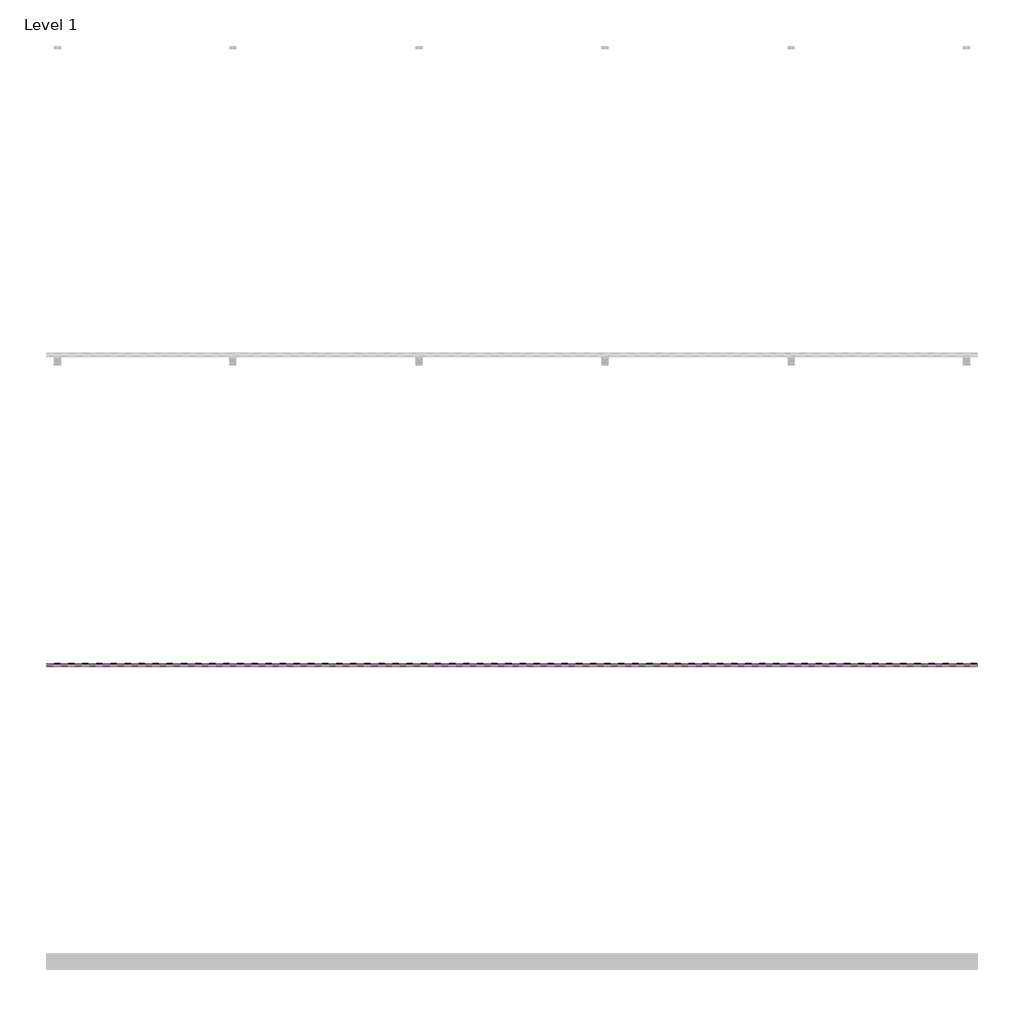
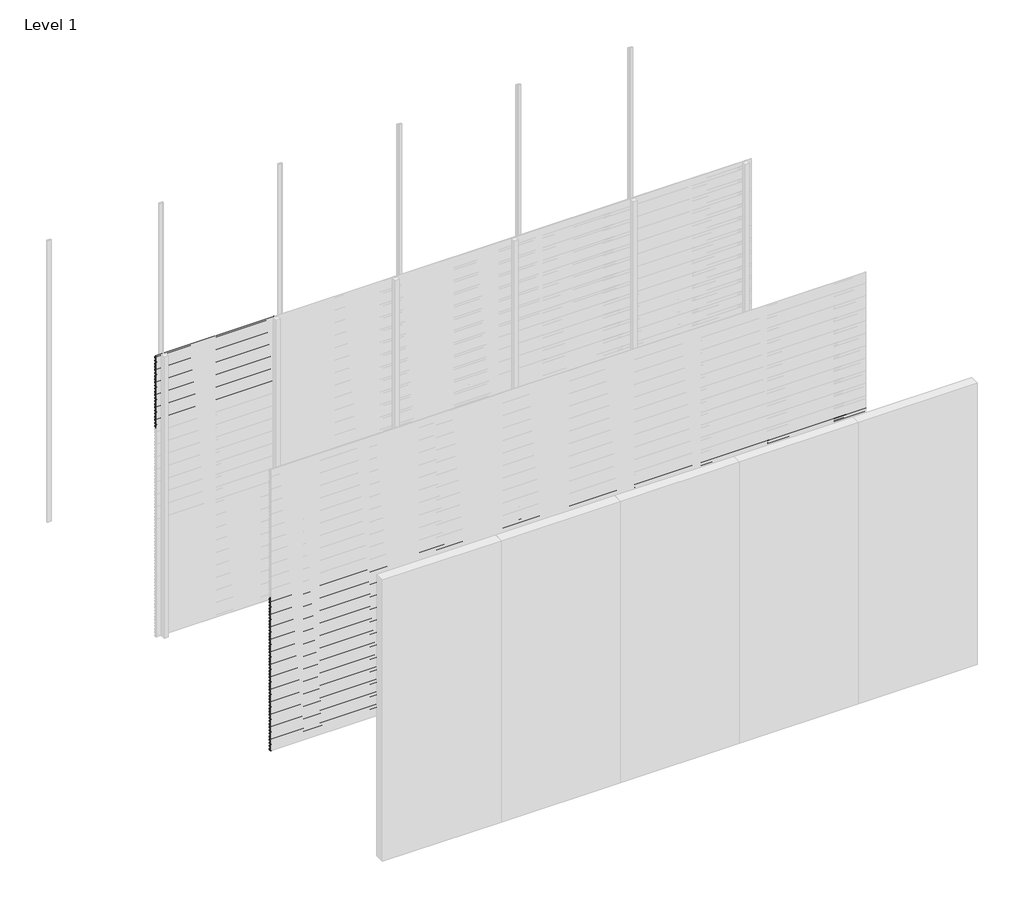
# One storey, part 34 of 77: 72 proxies.
"""IFC4 building model written with IfcOpenShell, lengths in millimetres."""

import ifcopenshell
import ifcopenshell.guid

model = None  # the IFC model being written
_history = None  # IfcOwnerHistory: only IFC2X3 demands one
_inside = {}  # id of a spatial element -> (the spatial element, [elements in it])
_under = {}  # id of a project, library or spatial element -> (it, [spatial elements below it])
_declared = {}  # id of a project -> (the project, [libraries it declares])
_typed = {}  # id of a type object -> (the type object, [elements of that type])
_made_of = {}  # id of a material, layer set ... -> (it, [elements and type objects made of it])


def new_model(schema):
    """Start an empty IFC model of exactly this schema.

    Asked for "IFC4X3", IfcOpenShell would pick the latest addendum, in which some entities
    have other attributes; the version numbers below select the first issue.
    IFC2X3 requires an IfcOwnerHistory on every rooted entity: one is made here for all.
    """
    global model, _history
    if schema == "IFC4X3":
        model = ifcopenshell.file(schema_version=(4, 3, 0, 0))
    else:
        model = ifcopenshell.file(schema=schema)
    _inside.clear()
    _under.clear()
    _declared.clear()
    _typed.clear()
    _made_of.clear()
    _history = None
    if model.schema == "IFC2X3":
        org = make("IfcOrganization", Name="unknown")
        user = make(
            "IfcPersonAndOrganization",
            ThePerson=make("IfcPerson", FamilyName="unknown"),
            TheOrganization=org,
        )
        app = make(
            "IfcApplication",
            ApplicationDeveloper=org,
            Version="unknown",
            ApplicationFullName="unknown",
            ApplicationIdentifier="unknown",
        )
        _history = make(
            "IfcOwnerHistory",
            OwningUser=user,
            OwningApplication=app,
            ChangeAction="ADDED",
            CreationDate=0,
        )
    return model


def make(cls, **values):
    """One entity of the class cls with the attributes given. An attribute that is None is left unset."""
    return model.create_entity(
        cls, **{name: value for name, value in values.items() if value is not None}
    )


def rooted(cls, **values):
    """An entity with a GlobalId (a new one), such as an element, a storey or a relation."""
    return make(cls, GlobalId=ifcopenshell.guid.new(), OwnerHistory=_history, **values)


def si_unit(unit_type, name, prefix=None):
    """IfcSIUnit, for example si_unit("LENGTHUNIT", "METRE", prefix="MILLI")."""
    return make("IfcSIUnit", UnitType=unit_type, Prefix=prefix, Name=name)


def assignment(units):
    """IfcUnitAssignment: the units of a project."""
    return None if units is None else make("IfcUnitAssignment", Units=units)


def point(xyz):
    """IfcCartesianPoint."""
    return None if xyz is None else make("IfcCartesianPoint", Coordinates=xyz)


def direction(xyz):
    """IfcDirection."""
    return None if xyz is None else make("IfcDirection", DirectionRatios=xyz)


def frame(location, z_axis=None, x_axis=None):
    """IfcAxis2Placement3D, a coordinate frame: its origin and axes. An axis left out is left unset."""
    return make(
        "IfcAxis2Placement3D",
        Location=point(location),
        Axis=direction(z_axis),
        RefDirection=direction(x_axis),
    )


def origin():
    """The frame at (0, 0, 0) with its axes left unset."""
    return frame((0.0, 0.0, 0.0))


def place(relative_to, where):
    """IfcLocalPlacement: puts the frame where relative to a parent placement (None: the world)."""
    return make(
        "IfcLocalPlacement", PlacementRelTo=relative_to, RelativePlacement=where
    )


def context(
    kind, dimensions, precision=None, world=None, true_north=None, identifier=None
):
    """IfcGeometricRepresentationContext, for example the 3D "Model" context."""
    return make(
        "IfcGeometricRepresentationContext",
        ContextIdentifier=identifier,
        ContextType=kind,
        CoordinateSpaceDimension=dimensions,
        Precision=precision,
        WorldCoordinateSystem=world,
        TrueNorth=true_north,
    )


def project(units=None, contexts=None):
    """IfcProject with its units and contexts."""
    return rooted(
        "IfcProject",
        Name="project",
        RepresentationContexts=contexts,
        UnitsInContext=assignment(units),
    )


def spatial(cls, under=None, at=None, **own):
    """A site, building, storey or space (cls), placed at a placement, below another one or the project."""
    s = rooted(cls, ObjectPlacement=at, **own)
    if under is not None:
        _under.setdefault(under.id(), (under, []))[1].append(s)
    return s


def polyline(points):
    """IfcPolyline through the points."""
    return make("IfcPolyline", Points=[point(p) for p in points])


def outline(outer, holes=None, kind="AREA"):
    """IfcArbitraryClosedProfileDef: a profile drawn as a closed curve; with holes, ...WithVoids."""
    if holes is None:
        return make("IfcArbitraryClosedProfileDef", ProfileType=kind, OuterCurve=outer)
    return make(
        "IfcArbitraryProfileDefWithVoids",
        ProfileType=kind,
        OuterCurve=outer,
        InnerCurves=holes,
    )


def extrude(swept, where, along, depth):
    """IfcExtrudedAreaSolid: the profile swept, set in the frame where, extruded along a direction by depth."""
    return make(
        "IfcExtrudedAreaSolid",
        SweptArea=swept,
        Position=where,
        ExtrudedDirection=direction(along),
        Depth=depth,
    )


def shape(context_of_items, identifier, shape_type, items):
    """IfcShapeRepresentation: the items that make up one representation, for example the "Body"."""
    return make(
        "IfcShapeRepresentation",
        ContextOfItems=context_of_items,
        RepresentationIdentifier=identifier,
        RepresentationType=shape_type,
        Items=items,
    )


def made_of(thing, what):
    """Note that an element or type object is made of a material, layer set ...; save() writes the relation."""
    if what is not None:
        _made_of.setdefault(what.id(), (what, []))[1].append(thing)
    return thing


def element(
    cls,
    number,
    at=None,
    inside=None,
    cuts=None,
    type_object=None,
    material=None,
    context=None,
    identifier="Body",
    shape_type=None,
    held_by="IfcProductDefinitionShape",
    body=None,
    shapes=None,
    **own,
):
    """One element of the class cls, such as IfcWall. Its Tag is "e" and its number.

    at: its placement. inside: the storey or other place that contains it. cuts: it is an
    opening in that element (IfcRelVoidsElement). A single representation is given by context,
    identifier, shape_type and body (its items); several are given by shapes. held_by: the class
    of the entity that holds the representations. save() writes the other relations.
    """
    e = rooted(cls, Tag="e%d" % number, ObjectPlacement=at, **own)
    if body is not None:
        shapes = [shape(context, identifier, shape_type, body)]
    if shapes is not None:
        e.Representation = make(held_by, Representations=shapes)
    if inside is not None:
        _inside.setdefault(inside.id(), (inside, []))[1].append(e)
    if cuts is not None:
        rooted(
            "IfcRelVoidsElement", RelatingBuildingElement=cuts, RelatedOpeningElement=e
        )
    if type_object is not None:
        _typed.setdefault(type_object.id(), (type_object, []))[1].append(e)
    return made_of(e, material)


def aggregate(whole, parts):
    """IfcRelAggregates: a whole, such as a stair, and the parts it consists of."""
    return rooted("IfcRelAggregates", RelatingObject=whole, RelatedObjects=parts)


def save(model, path):
    """Write the relations noted so far, then the file.

    IfcRelAggregates (storeys below a building ...), IfcRelContainedInSpatialStructure (elements
    in a storey), IfcRelDefinesByType, IfcRelAssociatesMaterial and IfcRelDeclares: one each for
    every whole, place, type object, material and project.
    """
    for whole, parts in _under.values():
        aggregate(whole, parts)
    for where, things in _inside.values():
        rooted(
            "IfcRelContainedInSpatialStructure",
            RelatedElements=things,
            RelatingStructure=where,
        )
    for kind, things in _typed.values():
        rooted("IfcRelDefinesByType", RelatedObjects=things, RelatingType=kind)
    for what, things in _made_of.values():
        rooted("IfcRelAssociatesMaterial", RelatedObjects=things, RelatingMaterial=what)
    for by, libraries in _declared.values():
        rooted("IfcRelDeclares", RelatingContext=by, RelatedDefinitions=libraries)
    model.write(path)


model = new_model("IFC4")

# Units and contexts
model_context = context("Model", 3, world=origin())
ifc_project = project(units=[si_unit("LENGTHUNIT", "METRE", prefix="MILLI")], contexts=[model_context])

# Site, building, storey
site = spatial("IfcSite", under=ifc_project)
building = spatial("IfcBuilding", under=site)
storey = spatial("IfcBuildingStorey", under=building, Name="Level 1", Elevation=0.0)

# Proxies
placement = place(None, origin())
element("IfcBuildingElementProxy", 1, Name="Wall Sweeps", at=placement, inside=storey, context=model_context, shape_type="SweptSolid", body=[
    extrude(outline(polyline([(-29978.6, 2972.5359887), (-29998.0, 2983.7366691), (-29998.0, 2997.0), (-29997.0, 2997.0), (-29997.0, 2984.3191057), (-29977.6, 2973.1185105), (-29977.6, 2959.5185105), (-29978.6, 2961.0953129), (-29978.6, 2966.9032062), (-29995.9773817, 2958.8), (-29996.4, 2959.7063078), (-29978.6, 2968.0065841), (-29978.6, 2972.5359887)])), frame((0.0, 0.0, 0.0), z_axis=(1.0, 0.0, 0.0), x_axis=(0.0, 1.0, 0.0)), (0.0, 0.0, 1.0), 1200.0),
])
element("IfcBuildingElementProxy", 2, Name="Wall Sweeps", at=placement, inside=storey, context=model_context, shape_type="SweptSolid", body=[
    extrude(outline(polyline([(-29978.6, 2939.2359887), (-29998.0, 2950.4366691), (-29998.0, 2963.7), (-29997.0, 2963.7), (-29997.0, 2951.0191057), (-29977.6, 2939.8185105), (-29977.6, 2926.2185105), (-29978.6, 2927.7953129), (-29978.6, 2933.6032062), (-29995.9773817, 2925.5), (-29996.4, 2926.4063078), (-29978.6, 2934.7065841), (-29978.6, 2939.2359887)])), frame((0.0, 0.0, 0.0), z_axis=(1.0, 0.0, 0.0), x_axis=(0.0, 1.0, 0.0)), (0.0, 0.0, 1.0), 1200.0),
])
element("IfcBuildingElementProxy", 3, Name="Wall Sweeps", at=placement, inside=storey, context=model_context, shape_type="SweptSolid", body=[
    extrude(outline(polyline([(-29978.6, 2905.9359887), (-29998.0, 2917.1366691), (-29998.0, 2930.4), (-29997.0, 2930.4), (-29997.0, 2917.7191057), (-29977.6, 2906.5185105), (-29977.6, 2892.9185105), (-29978.6, 2894.4953129), (-29978.6, 2900.3032062), (-29995.9773817, 2892.2), (-29996.4, 2893.1063078), (-29978.6, 2901.4065841), (-29978.6, 2905.9359887)])), frame((0.0, 0.0, 0.0), z_axis=(1.0, 0.0, 0.0), x_axis=(0.0, 1.0, 0.0)), (0.0, 0.0, 1.0), 1200.0),
])
element("IfcBuildingElementProxy", 4, Name="Wall Sweeps", at=placement, inside=storey, context=model_context, shape_type="SweptSolid", body=[
    extrude(outline(polyline([(-29978.6, 2872.6359887), (-29998.0, 2883.8366691), (-29998.0, 2897.1), (-29997.0, 2897.1), (-29997.0, 2884.4191057), (-29977.6, 2873.2185105), (-29977.6, 2859.6185105), (-29978.6, 2861.1953129), (-29978.6, 2867.0032062), (-29995.9773817, 2858.9), (-29996.4, 2859.8063078), (-29978.6, 2868.1065841), (-29978.6, 2872.6359887)])), frame((0.0, 0.0, 0.0), z_axis=(1.0, 0.0, 0.0), x_axis=(0.0, 1.0, 0.0)), (0.0, 0.0, 1.0), 1200.0),
])
element("IfcBuildingElementProxy", 5, Name="Wall Sweeps", at=placement, inside=storey, context=model_context, shape_type="SweptSolid", body=[
    extrude(outline(polyline([(-29978.6, 2839.3359887), (-29998.0, 2850.5366691), (-29998.0, 2863.8), (-29997.0, 2863.8), (-29997.0, 2851.1191057), (-29977.6, 2839.9185105), (-29977.6, 2826.3185105), (-29978.6, 2827.8953129), (-29978.6, 2833.7032062), (-29995.9773817, 2825.6), (-29996.4, 2826.5063078), (-29978.6, 2834.8065841), (-29978.6, 2839.3359887)])), frame((0.0, 0.0, 0.0), z_axis=(1.0, 0.0, 0.0), x_axis=(0.0, 1.0, 0.0)), (0.0, 0.0, 1.0), 1200.0),
])
element("IfcBuildingElementProxy", 6, Name="Wall Sweeps", at=placement, inside=storey, context=model_context, shape_type="SweptSolid", body=[
    extrude(outline(polyline([(-29978.6, 2806.0359887), (-29998.0, 2817.2366691), (-29998.0, 2830.5), (-29997.0, 2830.5), (-29997.0, 2817.8191057), (-29977.6, 2806.6185105), (-29977.6, 2793.0185105), (-29978.6, 2794.5953129), (-29978.6, 2800.4032062), (-29995.9773817, 2792.3), (-29996.4, 2793.2063078), (-29978.6, 2801.5065841), (-29978.6, 2806.0359887)])), frame((0.0, 0.0, 0.0), z_axis=(1.0, 0.0, 0.0), x_axis=(0.0, 1.0, 0.0)), (0.0, 0.0, 1.0), 1200.0),
])
element("IfcBuildingElementProxy", 7, Name="Wall Sweeps", at=placement, inside=storey, context=model_context, shape_type="SweptSolid", body=[
    extrude(outline(polyline([(-29978.6, 2772.7359887), (-29998.0, 2783.9366691), (-29998.0, 2797.2), (-29997.0, 2797.2), (-29997.0, 2784.5191057), (-29977.6, 2773.3185105), (-29977.6, 2759.7185105), (-29978.6, 2761.2953129), (-29978.6, 2767.1032062), (-29995.9773817, 2759.0), (-29996.4, 2759.9063078), (-29978.6, 2768.2065841), (-29978.6, 2772.7359887)])), frame((0.0, 0.0, 0.0), z_axis=(1.0, 0.0, 0.0), x_axis=(0.0, 1.0, 0.0)), (0.0, 0.0, 1.0), 1200.0),
])
element("IfcBuildingElementProxy", 8, Name="Wall Sweeps", at=placement, inside=storey, context=model_context, shape_type="SweptSolid", body=[
    extrude(outline(polyline([(-29978.6, 2739.4359887), (-29998.0, 2750.6366691), (-29998.0, 2763.9), (-29997.0, 2763.9), (-29997.0, 2751.2191057), (-29977.6, 2740.0185105), (-29977.6, 2726.4185105), (-29978.6, 2727.9953129), (-29978.6, 2733.8032062), (-29995.9773817, 2725.7), (-29996.4, 2726.6063078), (-29978.6, 2734.9065841), (-29978.6, 2739.4359887)])), frame((0.0, 0.0, 0.0), z_axis=(1.0, 0.0, 0.0), x_axis=(0.0, 1.0, 0.0)), (0.0, 0.0, 1.0), 1200.0),
])
element("IfcBuildingElementProxy", 9, Name="Wall Sweeps", at=placement, inside=storey, context=model_context, shape_type="SweptSolid", body=[
    extrude(outline(polyline([(-29978.6, 2706.1359887), (-29998.0, 2717.3366691), (-29998.0, 2730.6), (-29997.0, 2730.6), (-29997.0, 2717.9191057), (-29977.6, 2706.7185105), (-29977.6, 2693.1185105), (-29978.6, 2694.6953129), (-29978.6, 2700.5032062), (-29995.9773817, 2692.4), (-29996.4, 2693.3063078), (-29978.6, 2701.6065841), (-29978.6, 2706.1359887)])), frame((0.0, 0.0, 0.0), z_axis=(1.0, 0.0, 0.0), x_axis=(0.0, 1.0, 0.0)), (0.0, 0.0, 1.0), 1200.0),
])
element("IfcBuildingElementProxy", 10, Name="Wall Sweeps", at=placement, inside=storey, context=model_context, shape_type="SweptSolid", body=[
    extrude(outline(polyline([(-29978.6, 2672.8359887), (-29998.0, 2684.0366691), (-29998.0, 2697.3), (-29997.0, 2697.3), (-29997.0, 2684.6191057), (-29977.6, 2673.4185105), (-29977.6, 2659.8185105), (-29978.6, 2661.3953129), (-29978.6, 2667.2032062), (-29995.9773817, 2659.1), (-29996.4, 2660.0063078), (-29978.6, 2668.3065841), (-29978.6, 2672.8359887)])), frame((0.0, 0.0, 0.0), z_axis=(1.0, 0.0, 0.0), x_axis=(0.0, 1.0, 0.0)), (0.0, 0.0, 1.0), 1200.0),
])
element("IfcBuildingElementProxy", 11, Name="Wall Sweeps", at=placement, inside=storey, context=model_context, shape_type="SweptSolid", body=[
    extrude(outline(polyline([(-29978.6, 2639.5359887), (-29998.0, 2650.7366691), (-29998.0, 2664.0), (-29997.0, 2664.0), (-29997.0, 2651.3191057), (-29977.6, 2640.1185105), (-29977.6, 2626.5185105), (-29978.6, 2628.0953129), (-29978.6, 2633.9032062), (-29995.9773817, 2625.8), (-29996.4, 2626.7063078), (-29978.6, 2635.0065841), (-29978.6, 2639.5359887)])), frame((0.0, 0.0, 0.0), z_axis=(1.0, 0.0, 0.0), x_axis=(0.0, 1.0, 0.0)), (0.0, 0.0, 1.0), 1200.0),
])
element("IfcBuildingElementProxy", 12, Name="Wall Sweeps", at=placement, inside=storey, context=model_context, shape_type="SweptSolid", body=[
    extrude(outline(polyline([(-29978.6, 2606.2359887), (-29998.0, 2617.4366691), (-29998.0, 2630.7), (-29997.0, 2630.7), (-29997.0, 2618.0191057), (-29977.6, 2606.8185105), (-29977.6, 2593.2185105), (-29978.6, 2594.7953129), (-29978.6, 2600.6032062), (-29995.9773817, 2592.5), (-29996.4, 2593.4063078), (-29978.6, 2601.7065841), (-29978.6, 2606.2359887)])), frame((0.0, 0.0, 0.0), z_axis=(1.0, 0.0, 0.0), x_axis=(0.0, 1.0, 0.0)), (0.0, 0.0, 1.0), 1200.0),
])
element("IfcBuildingElementProxy", 13, Name="Wall Sweeps", at=placement, inside=storey, context=model_context, shape_type="SweptSolid", body=[
    extrude(outline(polyline([(-29978.6, 2572.9359887), (-29998.0, 2584.1366691), (-29998.0, 2597.4), (-29997.0, 2597.4), (-29997.0, 2584.7191057), (-29977.6, 2573.5185105), (-29977.6, 2559.9185105), (-29978.6, 2561.4953129), (-29978.6, 2567.3032062), (-29995.9773817, 2559.2), (-29996.4, 2560.1063078), (-29978.6, 2568.4065841), (-29978.6, 2572.9359887)])), frame((0.0, 0.0, 0.0), z_axis=(1.0, 0.0, 0.0), x_axis=(0.0, 1.0, 0.0)), (0.0, 0.0, 1.0), 1200.0),
])
element("IfcBuildingElementProxy", 14, Name="Wall Sweeps", at=placement, inside=storey, context=model_context, shape_type="SweptSolid", body=[
    extrude(outline(polyline([(-29978.6, 2539.6359887), (-29998.0, 2550.8366691), (-29998.0, 2564.1), (-29997.0, 2564.1), (-29997.0, 2551.4191057), (-29977.6, 2540.2185105), (-29977.6, 2526.6185105), (-29978.6, 2528.1953129), (-29978.6, 2534.0032062), (-29995.9773817, 2525.9), (-29996.4, 2526.8063078), (-29978.6, 2535.1065841), (-29978.6, 2539.6359887)])), frame((0.0, 0.0, 0.0), z_axis=(1.0, 0.0, 0.0), x_axis=(0.0, 1.0, 0.0)), (0.0, 0.0, 1.0), 1200.0),
])
element("IfcBuildingElementProxy", 15, Name="Wall Sweeps", at=placement, inside=storey, context=model_context, shape_type="SweptSolid", body=[
    extrude(outline(polyline([(-29978.6, 2506.3359887), (-29998.0, 2517.5366691), (-29998.0, 2530.8), (-29997.0, 2530.8), (-29997.0, 2518.1191057), (-29977.6, 2506.9185105), (-29977.6, 2493.3185105), (-29978.6, 2494.8953129), (-29978.6, 2500.7032062), (-29995.9773817, 2492.6), (-29996.4, 2493.5063078), (-29978.6, 2501.8065841), (-29978.6, 2506.3359887)])), frame((0.0, 0.0, 0.0), z_axis=(1.0, 0.0, 0.0), x_axis=(0.0, 1.0, 0.0)), (0.0, 0.0, 1.0), 1200.0),
])
element("IfcBuildingElementProxy", 16, Name="Wall Sweeps", at=placement, inside=storey, context=model_context, shape_type="SweptSolid", body=[
    extrude(outline(polyline([(-29978.6, 2473.0359887), (-29998.0, 2484.2366691), (-29998.0, 2497.5), (-29997.0, 2497.5), (-29997.0, 2484.8191057), (-29977.6, 2473.6185105), (-29977.6, 2460.0185105), (-29978.6, 2461.5953129), (-29978.6, 2467.4032062), (-29995.9773817, 2459.3), (-29996.4, 2460.2063078), (-29978.6, 2468.5065841), (-29978.6, 2473.0359887)])), frame((0.0, 0.0, 0.0), z_axis=(1.0, 0.0, 0.0), x_axis=(0.0, 1.0, 0.0)), (0.0, 0.0, 1.0), 1200.0),
])
element("IfcBuildingElementProxy", 17, Name="Wall Sweeps", at=placement, inside=storey, context=model_context, shape_type="SweptSolid", body=[
    extrude(outline(polyline([(-29978.6, 2439.7359887), (-29998.0, 2450.9366691), (-29998.0, 2464.2), (-29997.0, 2464.2), (-29997.0, 2451.5191057), (-29977.6, 2440.3185105), (-29977.6, 2426.7185105), (-29978.6, 2428.2953129), (-29978.6, 2434.1032062), (-29995.9773817, 2426.0), (-29996.4, 2426.9063078), (-29978.6, 2435.2065841), (-29978.6, 2439.7359887)])), frame((0.0, 0.0, 0.0), z_axis=(1.0, 0.0, 0.0), x_axis=(0.0, 1.0, 0.0)), (0.0, 0.0, 1.0), 1200.0),
])
element("IfcBuildingElementProxy", 18, Name="Wall Sweeps", at=placement, inside=storey, context=model_context, shape_type="SweptSolid", body=[
    extrude(outline(polyline([(-29978.6, 2406.4359887), (-29998.0, 2417.6366691), (-29998.0, 2430.9), (-29997.0, 2430.9), (-29997.0, 2418.2191057), (-29977.6, 2407.0185105), (-29977.6, 2393.4185105), (-29978.6, 2394.9953129), (-29978.6, 2400.8032062), (-29995.9773817, 2392.7), (-29996.4, 2393.6063078), (-29978.6, 2401.9065841), (-29978.6, 2406.4359887)])), frame((0.0, 0.0, 0.0), z_axis=(1.0, 0.0, 0.0), x_axis=(0.0, 1.0, 0.0)), (0.0, 0.0, 1.0), 1200.0),
])
element("IfcBuildingElementProxy", 19, Name="Wall Sweeps", at=placement, inside=storey, context=model_context, shape_type="SweptSolid", body=[
    extrude(outline(polyline([(-29978.6, 2373.1359887), (-29998.0, 2384.3366691), (-29998.0, 2397.6), (-29997.0, 2397.6), (-29997.0, 2384.9191057), (-29977.6, 2373.7185105), (-29977.6, 2360.1185105), (-29978.6, 2361.6953129), (-29978.6, 2367.5032062), (-29995.9773817, 2359.4), (-29996.4, 2360.3063078), (-29978.6, 2368.6065841), (-29978.6, 2373.1359887)])), frame((0.0, 0.0, 0.0), z_axis=(1.0, 0.0, 0.0), x_axis=(0.0, 1.0, 0.0)), (0.0, 0.0, 1.0), 1200.0),
])
element("IfcBuildingElementProxy", 20, Name="Wall Sweeps", at=placement, inside=storey, context=model_context, shape_type="SweptSolid", body=[
    extrude(outline(polyline([(-29978.6, 2339.8359887), (-29998.0, 2351.0366691), (-29998.0, 2364.3), (-29997.0, 2364.3), (-29997.0, 2351.6191057), (-29977.6, 2340.4185105), (-29977.6, 2326.8185105), (-29978.6, 2328.3953129), (-29978.6, 2334.2032062), (-29995.9773817, 2326.1), (-29996.4, 2327.0063078), (-29978.6, 2335.3065841), (-29978.6, 2339.8359887)])), frame((0.0, 0.0, 0.0), z_axis=(1.0, 0.0, 0.0), x_axis=(0.0, 1.0, 0.0)), (0.0, 0.0, 1.0), 1200.0),
])
element("IfcBuildingElementProxy", 21, Name="Wall Sweeps", at=placement, inside=storey, context=model_context, shape_type="SweptSolid", body=[
    extrude(outline(polyline([(-29978.6, 2306.5359887), (-29998.0, 2317.7366691), (-29998.0, 2331.0), (-29997.0, 2331.0), (-29997.0, 2318.3191057), (-29977.6, 2307.1185105), (-29977.6, 2293.5185105), (-29978.6, 2295.0953129), (-29978.6, 2300.9032062), (-29995.9773817, 2292.8), (-29996.4, 2293.7063078), (-29978.6, 2302.0065841), (-29978.6, 2306.5359887)])), frame((0.0, 0.0, 0.0), z_axis=(1.0, 0.0, 0.0), x_axis=(0.0, 1.0, 0.0)), (0.0, 0.0, 1.0), 1200.0),
])
element("IfcBuildingElementProxy", 22, Name="Wall Sweeps", at=placement, inside=storey, context=model_context, shape_type="SweptSolid", body=[
    extrude(outline(polyline([(-29978.6, 2273.2359887), (-29998.0, 2284.4366691), (-29998.0, 2297.7), (-29997.0, 2297.7), (-29997.0, 2285.0191057), (-29977.6, 2273.8185105), (-29977.6, 2260.2185105), (-29978.6, 2261.7953129), (-29978.6, 2267.6032062), (-29995.9773817, 2259.5), (-29996.4, 2260.4063078), (-29978.6, 2268.7065841), (-29978.6, 2273.2359887)])), frame((0.0, 0.0, 0.0), z_axis=(1.0, 0.0, 0.0), x_axis=(0.0, 1.0, 0.0)), (0.0, 0.0, 1.0), 1200.0),
])
element("IfcBuildingElementProxy", 23, Name="Wall Sweeps", at=placement, inside=storey, context=model_context, shape_type="SweptSolid", body=[
    extrude(outline(polyline([(-29978.6, 2239.9359887), (-29998.0, 2251.1366691), (-29998.0, 2264.4), (-29997.0, 2264.4), (-29997.0, 2251.7191057), (-29977.6, 2240.5185105), (-29977.6, 2226.9185105), (-29978.6, 2228.4953129), (-29978.6, 2234.3032062), (-29995.9773817, 2226.2), (-29996.4, 2227.1063078), (-29978.6, 2235.4065841), (-29978.6, 2239.9359887)])), frame((0.0, 0.0, 0.0), z_axis=(1.0, 0.0, 0.0), x_axis=(0.0, 1.0, 0.0)), (0.0, 0.0, 1.0), 1200.0),
])
element("IfcBuildingElementProxy", 24, Name="Wall Sweeps", at=placement, inside=storey, context=model_context, shape_type="SweptSolid", body=[
    extrude(outline(polyline([(-31978.6, 1607.2359887), (-31998.0, 1618.4366691), (-31998.0, 1631.7), (-31997.0, 1631.7), (-31997.0, 1619.0191057), (-31977.6, 1607.8185105), (-31977.6, 1594.2185105), (-31978.6, 1595.7953129), (-31978.6, 1601.6032062), (-31995.9773817, 1593.5), (-31996.4, 1594.4063078), (-31978.6, 1602.7065841), (-31978.6, 1607.2359887)])), frame((0.0, 0.0, 0.0), z_axis=(1.0, 0.0, 0.0), x_axis=(0.0, 1.0, 0.0)), (0.0, 0.0, 1.0), 6000.0),
])
element("IfcBuildingElementProxy", 25, Name="Wall Sweeps", at=placement, inside=storey, context=model_context, shape_type="SweptSolid", body=[
    extrude(outline(polyline([(-31978.6, 1573.9359887), (-31998.0, 1585.1366691), (-31998.0, 1598.4), (-31997.0, 1598.4), (-31997.0, 1585.7191057), (-31977.6, 1574.5185105), (-31977.6, 1560.9185105), (-31978.6, 1562.4953129), (-31978.6, 1568.3032062), (-31995.9773817, 1560.2), (-31996.4, 1561.1063078), (-31978.6, 1569.4065841), (-31978.6, 1573.9359887)])), frame((0.0, 0.0, 0.0), z_axis=(1.0, 0.0, 0.0), x_axis=(0.0, 1.0, 0.0)), (0.0, 0.0, 1.0), 6000.0),
])
element("IfcBuildingElementProxy", 26, Name="Wall Sweeps", at=placement, inside=storey, context=model_context, shape_type="SweptSolid", body=[
    extrude(outline(polyline([(-31978.6, 1540.6359887), (-31998.0, 1551.8366691), (-31998.0, 1565.1), (-31997.0, 1565.1), (-31997.0, 1552.4191057), (-31977.6, 1541.2185105), (-31977.6, 1527.6185105), (-31978.6, 1529.1953129), (-31978.6, 1535.0032062), (-31995.9773817, 1526.9), (-31996.4, 1527.8063078), (-31978.6, 1536.1065841), (-31978.6, 1540.6359887)])), frame((0.0, 0.0, 0.0), z_axis=(1.0, 0.0, 0.0), x_axis=(0.0, 1.0, 0.0)), (0.0, 0.0, 1.0), 6000.0),
])
element("IfcBuildingElementProxy", 27, Name="Wall Sweeps", at=placement, inside=storey, context=model_context, shape_type="SweptSolid", body=[
    extrude(outline(polyline([(-31978.6, 1507.3359887), (-31998.0, 1518.5366691), (-31998.0, 1531.8), (-31997.0, 1531.8), (-31997.0, 1519.1191057), (-31977.6, 1507.9185105), (-31977.6, 1494.3185105), (-31978.6, 1495.8953129), (-31978.6, 1501.7032062), (-31995.9773817, 1493.6), (-31996.4, 1494.5063078), (-31978.6, 1502.8065841), (-31978.6, 1507.3359887)])), frame((0.0, 0.0, 0.0), z_axis=(1.0, 0.0, 0.0), x_axis=(0.0, 1.0, 0.0)), (0.0, 0.0, 1.0), 6000.0),
])
element("IfcBuildingElementProxy", 28, Name="Wall Sweeps", at=placement, inside=storey, context=model_context, shape_type="SweptSolid", body=[
    extrude(outline(polyline([(-31978.6, 1474.0359887), (-31998.0, 1485.2366691), (-31998.0, 1498.5), (-31997.0, 1498.5), (-31997.0, 1485.8191057), (-31977.6, 1474.6185105), (-31977.6, 1461.0185105), (-31978.6, 1462.5953129), (-31978.6, 1468.4032062), (-31995.9773817, 1460.3), (-31996.4, 1461.2063078), (-31978.6, 1469.5065841), (-31978.6, 1474.0359887)])), frame((0.0, 0.0, 0.0), z_axis=(1.0, 0.0, 0.0), x_axis=(0.0, 1.0, 0.0)), (0.0, 0.0, 1.0), 6000.0),
])
element("IfcBuildingElementProxy", 29, Name="Wall Sweeps", at=placement, inside=storey, context=model_context, shape_type="SweptSolid", body=[
    extrude(outline(polyline([(-31978.6, 1440.7359887), (-31998.0, 1451.9366691), (-31998.0, 1465.2), (-31997.0, 1465.2), (-31997.0, 1452.5191057), (-31977.6, 1441.3185105), (-31977.6, 1427.7185105), (-31978.6, 1429.2953129), (-31978.6, 1435.1032062), (-31995.9773817, 1427.0), (-31996.4, 1427.9063078), (-31978.6, 1436.2065841), (-31978.6, 1440.7359887)])), frame((0.0, 0.0, 0.0), z_axis=(1.0, 0.0, 0.0), x_axis=(0.0, 1.0, 0.0)), (0.0, 0.0, 1.0), 6000.0),
])
element("IfcBuildingElementProxy", 30, Name="Wall Sweeps", at=placement, inside=storey, context=model_context, shape_type="SweptSolid", body=[
    extrude(outline(polyline([(-31978.6, 1407.4359887), (-31998.0, 1418.6366691), (-31998.0, 1431.9), (-31997.0, 1431.9), (-31997.0, 1419.2191057), (-31977.6, 1408.0185105), (-31977.6, 1394.4185105), (-31978.6, 1395.9953129), (-31978.6, 1401.8032062), (-31995.9773817, 1393.7), (-31996.4, 1394.6063078), (-31978.6, 1402.9065841), (-31978.6, 1407.4359887)])), frame((0.0, 0.0, 0.0), z_axis=(1.0, 0.0, 0.0), x_axis=(0.0, 1.0, 0.0)), (0.0, 0.0, 1.0), 6000.0),
])
element("IfcBuildingElementProxy", 31, Name="Wall Sweeps", at=placement, inside=storey, context=model_context, shape_type="SweptSolid", body=[
    extrude(outline(polyline([(-31978.6, 1374.1359887), (-31998.0, 1385.3366691), (-31998.0, 1398.6), (-31997.0, 1398.6), (-31997.0, 1385.9191057), (-31977.6, 1374.7185105), (-31977.6, 1361.1185105), (-31978.6, 1362.6953129), (-31978.6, 1368.5032062), (-31995.9773817, 1360.4), (-31996.4, 1361.3063078), (-31978.6, 1369.6065841), (-31978.6, 1374.1359887)])), frame((0.0, 0.0, 0.0), z_axis=(1.0, 0.0, 0.0), x_axis=(0.0, 1.0, 0.0)), (0.0, 0.0, 1.0), 6000.0),
])
element("IfcBuildingElementProxy", 32, Name="Wall Sweeps", at=placement, inside=storey, context=model_context, shape_type="SweptSolid", body=[
    extrude(outline(polyline([(-31978.6, 1340.8359887), (-31998.0, 1352.0366691), (-31998.0, 1365.3), (-31997.0, 1365.3), (-31997.0, 1352.6191057), (-31977.6, 1341.4185105), (-31977.6, 1327.8185105), (-31978.6, 1329.3953129), (-31978.6, 1335.2032062), (-31995.9773817, 1327.1), (-31996.4, 1328.0063078), (-31978.6, 1336.3065841), (-31978.6, 1340.8359887)])), frame((0.0, 0.0, 0.0), z_axis=(1.0, 0.0, 0.0), x_axis=(0.0, 1.0, 0.0)), (0.0, 0.0, 1.0), 6000.0),
])
element("IfcBuildingElementProxy", 33, Name="Wall Sweeps", at=placement, inside=storey, context=model_context, shape_type="SweptSolid", body=[
    extrude(outline(polyline([(-31978.6, 1307.5359887), (-31998.0, 1318.7366691), (-31998.0, 1332.0), (-31997.0, 1332.0), (-31997.0, 1319.3191057), (-31977.6, 1308.1185105), (-31977.6, 1294.5185105), (-31978.6, 1296.0953129), (-31978.6, 1301.9032062), (-31995.9773817, 1293.8), (-31996.4, 1294.7063078), (-31978.6, 1303.0065841), (-31978.6, 1307.5359887)])), frame((0.0, 0.0, 0.0), z_axis=(1.0, 0.0, 0.0), x_axis=(0.0, 1.0, 0.0)), (0.0, 0.0, 1.0), 6000.0),
])
element("IfcBuildingElementProxy", 34, Name="Wall Sweeps", at=placement, inside=storey, context=model_context, shape_type="SweptSolid", body=[
    extrude(outline(polyline([(-31978.6, 1274.2359887), (-31998.0, 1285.4366691), (-31998.0, 1298.7), (-31997.0, 1298.7), (-31997.0, 1286.0191057), (-31977.6, 1274.8185105), (-31977.6, 1261.2185105), (-31978.6, 1262.7953129), (-31978.6, 1268.6032062), (-31995.9773817, 1260.5), (-31996.4, 1261.4063078), (-31978.6, 1269.7065841), (-31978.6, 1274.2359887)])), frame((0.0, 0.0, 0.0), z_axis=(1.0, 0.0, 0.0), x_axis=(0.0, 1.0, 0.0)), (0.0, 0.0, 1.0), 6000.0),
])
element("IfcBuildingElementProxy", 35, Name="Wall Sweeps", at=placement, inside=storey, context=model_context, shape_type="SweptSolid", body=[
    extrude(outline(polyline([(-31978.6, 1240.9359887), (-31998.0, 1252.1366691), (-31998.0, 1265.4), (-31997.0, 1265.4), (-31997.0, 1252.7191057), (-31977.6, 1241.5185105), (-31977.6, 1227.9185105), (-31978.6, 1229.4953129), (-31978.6, 1235.3032062), (-31995.9773817, 1227.2), (-31996.4, 1228.1063078), (-31978.6, 1236.4065841), (-31978.6, 1240.9359887)])), frame((0.0, 0.0, 0.0), z_axis=(1.0, 0.0, 0.0), x_axis=(0.0, 1.0, 0.0)), (0.0, 0.0, 1.0), 6000.0),
])
element("IfcBuildingElementProxy", 36, Name="Wall Sweeps", at=placement, inside=storey, context=model_context, shape_type="SweptSolid", body=[
    extrude(outline(polyline([(-31978.6, 1207.6359887), (-31998.0, 1218.8366691), (-31998.0, 1232.1), (-31997.0, 1232.1), (-31997.0, 1219.4191057), (-31977.6, 1208.2185105), (-31977.6, 1194.6185105), (-31978.6, 1196.1953129), (-31978.6, 1202.0032062), (-31995.9773817, 1193.9), (-31996.4, 1194.8063078), (-31978.6, 1203.1065841), (-31978.6, 1207.6359887)])), frame((0.0, 0.0, 0.0), z_axis=(1.0, 0.0, 0.0), x_axis=(0.0, 1.0, 0.0)), (0.0, 0.0, 1.0), 6000.0),
])
element("IfcBuildingElementProxy", 37, Name="Wall Sweeps", at=placement, inside=storey, context=model_context, shape_type="SweptSolid", body=[
    extrude(outline(polyline([(-31978.6, 1174.3359887), (-31998.0, 1185.5366691), (-31998.0, 1198.8), (-31997.0, 1198.8), (-31997.0, 1186.1191057), (-31977.6, 1174.9185105), (-31977.6, 1161.3185105), (-31978.6, 1162.8953129), (-31978.6, 1168.7032062), (-31995.9773817, 1160.6), (-31996.4, 1161.5063078), (-31978.6, 1169.8065841), (-31978.6, 1174.3359887)])), frame((0.0, 0.0, 0.0), z_axis=(1.0, 0.0, 0.0), x_axis=(0.0, 1.0, 0.0)), (0.0, 0.0, 1.0), 6000.0),
])
element("IfcBuildingElementProxy", 38, Name="Wall Sweeps", at=placement, inside=storey, context=model_context, shape_type="SweptSolid", body=[
    extrude(outline(polyline([(-31978.6, 1141.0359887), (-31998.0, 1152.2366691), (-31998.0, 1165.5), (-31997.0, 1165.5), (-31997.0, 1152.8191057), (-31977.6, 1141.6185105), (-31977.6, 1128.0185105), (-31978.6, 1129.5953129), (-31978.6, 1135.4032062), (-31995.9773817, 1127.3), (-31996.4, 1128.2063078), (-31978.6, 1136.5065841), (-31978.6, 1141.0359887)])), frame((0.0, 0.0, 0.0), z_axis=(1.0, 0.0, 0.0), x_axis=(0.0, 1.0, 0.0)), (0.0, 0.0, 1.0), 6000.0),
])
element("IfcBuildingElementProxy", 39, Name="Wall Sweeps", at=placement, inside=storey, context=model_context, shape_type="SweptSolid", body=[
    extrude(outline(polyline([(-31978.6, 1107.7359887), (-31998.0, 1118.9366691), (-31998.0, 1132.2), (-31997.0, 1132.2), (-31997.0, 1119.5191057), (-31977.6, 1108.3185105), (-31977.6, 1094.7185105), (-31978.6, 1096.2953129), (-31978.6, 1102.1032062), (-31995.9773817, 1094.0), (-31996.4, 1094.9063078), (-31978.6, 1103.2065841), (-31978.6, 1107.7359887)])), frame((0.0, 0.0, 0.0), z_axis=(1.0, 0.0, 0.0), x_axis=(0.0, 1.0, 0.0)), (0.0, 0.0, 1.0), 6000.0),
])
element("IfcBuildingElementProxy", 40, Name="Wall Sweeps", at=placement, inside=storey, context=model_context, shape_type="SweptSolid", body=[
    extrude(outline(polyline([(-31978.6, 1074.4359887), (-31998.0, 1085.6366691), (-31998.0, 1098.9), (-31997.0, 1098.9), (-31997.0, 1086.2191057), (-31977.6, 1075.0185105), (-31977.6, 1061.4185105), (-31978.6, 1062.9953129), (-31978.6, 1068.8032062), (-31995.9773817, 1060.7), (-31996.4, 1061.6063078), (-31978.6, 1069.9065841), (-31978.6, 1074.4359887)])), frame((0.0, 0.0, 0.0), z_axis=(1.0, 0.0, 0.0), x_axis=(0.0, 1.0, 0.0)), (0.0, 0.0, 1.0), 6000.0),
])
element("IfcBuildingElementProxy", 41, Name="Wall Sweeps", at=placement, inside=storey, context=model_context, shape_type="SweptSolid", body=[
    extrude(outline(polyline([(-31978.6, 1041.1359887), (-31998.0, 1052.3366691), (-31998.0, 1065.6), (-31997.0, 1065.6), (-31997.0, 1052.9191057), (-31977.6, 1041.7185105), (-31977.6, 1028.1185105), (-31978.6, 1029.6953129), (-31978.6, 1035.5032062), (-31995.9773817, 1027.4), (-31996.4, 1028.3063078), (-31978.6, 1036.6065841), (-31978.6, 1041.1359887)])), frame((0.0, 0.0, 0.0), z_axis=(1.0, 0.0, 0.0), x_axis=(0.0, 1.0, 0.0)), (0.0, 0.0, 1.0), 6000.0),
])
element("IfcBuildingElementProxy", 42, Name="Wall Sweeps", at=placement, inside=storey, context=model_context, shape_type="SweptSolid", body=[
    extrude(outline(polyline([(-31978.6, 1007.8359887), (-31998.0, 1019.0366691), (-31998.0, 1032.3), (-31997.0, 1032.3), (-31997.0, 1019.6191057), (-31977.6, 1008.4185105), (-31977.6, 994.8185105), (-31978.6, 996.3953129), (-31978.6, 1002.2032062), (-31995.9773817, 994.1), (-31996.4, 995.0063078), (-31978.6, 1003.3065841), (-31978.6, 1007.8359887)])), frame((0.0, 0.0, 0.0), z_axis=(1.0, 0.0, 0.0), x_axis=(0.0, 1.0, 0.0)), (0.0, 0.0, 1.0), 6000.0),
])
element("IfcBuildingElementProxy", 43, Name="Wall Sweeps", at=placement, inside=storey, context=model_context, shape_type="SweptSolid", body=[
    extrude(outline(polyline([(-31978.6, 974.5359887), (-31998.0, 985.7366691), (-31998.0, 999.0), (-31997.0, 999.0), (-31997.0, 986.3191057), (-31977.6, 975.1185105), (-31977.6, 961.5185105), (-31978.6, 963.0953129), (-31978.6, 968.9032062), (-31995.9773817, 960.8), (-31996.4, 961.7063078), (-31978.6, 970.0065841), (-31978.6, 974.5359887)])), frame((0.0, 0.0, 0.0), z_axis=(1.0, 0.0, 0.0), x_axis=(0.0, 1.0, 0.0)), (0.0, 0.0, 1.0), 6000.0),
])
element("IfcBuildingElementProxy", 44, Name="Wall Sweeps", at=placement, inside=storey, context=model_context, shape_type="SweptSolid", body=[
    extrude(outline(polyline([(-31978.6, 941.2359887), (-31998.0, 952.4366691), (-31998.0, 965.7), (-31997.0, 965.7), (-31997.0, 953.0191057), (-31977.6, 941.8185105), (-31977.6, 928.2185105), (-31978.6, 929.7953129), (-31978.6, 935.6032062), (-31995.9773817, 927.5), (-31996.4, 928.4063078), (-31978.6, 936.7065841), (-31978.6, 941.2359887)])), frame((0.0, 0.0, 0.0), z_axis=(1.0, 0.0, 0.0), x_axis=(0.0, 1.0, 0.0)), (0.0, 0.0, 1.0), 6000.0),
])
element("IfcBuildingElementProxy", 45, Name="Wall Sweeps", at=placement, inside=storey, context=model_context, shape_type="SweptSolid", body=[
    extrude(outline(polyline([(-31978.6, 907.9359887), (-31998.0, 919.1366691), (-31998.0, 932.4), (-31997.0, 932.4), (-31997.0, 919.7191057), (-31977.6, 908.5185105), (-31977.6, 894.9185105), (-31978.6, 896.4953129), (-31978.6, 902.3032062), (-31995.9773817, 894.2), (-31996.4, 895.1063078), (-31978.6, 903.4065841), (-31978.6, 907.9359887)])), frame((0.0, 0.0, 0.0), z_axis=(1.0, 0.0, 0.0), x_axis=(0.0, 1.0, 0.0)), (0.0, 0.0, 1.0), 6000.0),
])
element("IfcBuildingElementProxy", 46, Name="Wall Sweeps", at=placement, inside=storey, context=model_context, shape_type="SweptSolid", body=[
    extrude(outline(polyline([(-31978.6, 874.6359887), (-31998.0, 885.8366691), (-31998.0, 899.1), (-31997.0, 899.1), (-31997.0, 886.4191057), (-31977.6, 875.2185105), (-31977.6, 861.6185105), (-31978.6, 863.1953129), (-31978.6, 869.0032062), (-31995.9773817, 860.9), (-31996.4, 861.8063078), (-31978.6, 870.1065841), (-31978.6, 874.6359887)])), frame((0.0, 0.0, 0.0), z_axis=(1.0, 0.0, 0.0), x_axis=(0.0, 1.0, 0.0)), (0.0, 0.0, 1.0), 6000.0),
])
element("IfcBuildingElementProxy", 47, Name="Wall Sweeps", at=placement, inside=storey, context=model_context, shape_type="SweptSolid", body=[
    extrude(outline(polyline([(-31978.6, 841.3359887), (-31998.0, 852.5366691), (-31998.0, 865.8), (-31997.0, 865.8), (-31997.0, 853.1191057), (-31977.6, 841.9185105), (-31977.6, 828.3185105), (-31978.6, 829.8953129), (-31978.6, 835.7032062), (-31995.9773817, 827.6), (-31996.4, 828.5063078), (-31978.6, 836.8065841), (-31978.6, 841.3359887)])), frame((0.0, 0.0, 0.0), z_axis=(1.0, 0.0, 0.0), x_axis=(0.0, 1.0, 0.0)), (0.0, 0.0, 1.0), 6000.0),
])
element("IfcBuildingElementProxy", 48, Name="Wall Sweeps", at=placement, inside=storey, context=model_context, shape_type="SweptSolid", body=[
    extrude(outline(polyline([(-31978.6, 808.0359887), (-31998.0, 819.2366691), (-31998.0, 832.5), (-31997.0, 832.5), (-31997.0, 819.8191057), (-31977.6, 808.6185105), (-31977.6, 795.0185105), (-31978.6, 796.5953129), (-31978.6, 802.4032062), (-31995.9773817, 794.3), (-31996.4, 795.2063078), (-31978.6, 803.5065841), (-31978.6, 808.0359887)])), frame((0.0, 0.0, 0.0), z_axis=(1.0, 0.0, 0.0), x_axis=(0.0, 1.0, 0.0)), (0.0, 0.0, 1.0), 6000.0),
])
element("IfcBuildingElementProxy", 49, Name="Wall Sweeps", at=placement, inside=storey, context=model_context, shape_type="SweptSolid", body=[
    extrude(outline(polyline([(-31978.6, 774.7359887), (-31998.0, 785.9366691), (-31998.0, 799.2), (-31997.0, 799.2), (-31997.0, 786.5191057), (-31977.6, 775.3185105), (-31977.6, 761.7185105), (-31978.6, 763.2953129), (-31978.6, 769.1032062), (-31995.9773817, 761.0), (-31996.4, 761.9063078), (-31978.6, 770.2065841), (-31978.6, 774.7359887)])), frame((0.0, 0.0, 0.0), z_axis=(1.0, 0.0, 0.0), x_axis=(0.0, 1.0, 0.0)), (0.0, 0.0, 1.0), 6000.0),
])
element("IfcBuildingElementProxy", 50, Name="Wall Sweeps", at=placement, inside=storey, context=model_context, shape_type="SweptSolid", body=[
    extrude(outline(polyline([(-31978.6, 741.4359887), (-31998.0, 752.6366691), (-31998.0, 765.9), (-31997.0, 765.9), (-31997.0, 753.2191057), (-31977.6, 742.0185105), (-31977.6, 728.4185105), (-31978.6, 729.9953129), (-31978.6, 735.8032062), (-31995.9773817, 727.7), (-31996.4, 728.6063078), (-31978.6, 736.9065841), (-31978.6, 741.4359887)])), frame((0.0, 0.0, 0.0), z_axis=(1.0, 0.0, 0.0), x_axis=(0.0, 1.0, 0.0)), (0.0, 0.0, 1.0), 6000.0),
])
element("IfcBuildingElementProxy", 51, Name="Wall Sweeps", at=placement, inside=storey, context=model_context, shape_type="SweptSolid", body=[
    extrude(outline(polyline([(-31978.6, 708.1359887), (-31998.0, 719.3366691), (-31998.0, 732.6), (-31997.0, 732.6), (-31997.0, 719.9191057), (-31977.6, 708.7185105), (-31977.6, 695.1185105), (-31978.6, 696.6953129), (-31978.6, 702.5032062), (-31995.9773817, 694.4), (-31996.4, 695.3063078), (-31978.6, 703.6065841), (-31978.6, 708.1359887)])), frame((0.0, 0.0, 0.0), z_axis=(1.0, 0.0, 0.0), x_axis=(0.0, 1.0, 0.0)), (0.0, 0.0, 1.0), 6000.0),
])
element("IfcBuildingElementProxy", 52, Name="Wall Sweeps", at=placement, inside=storey, context=model_context, shape_type="SweptSolid", body=[
    extrude(outline(polyline([(-31978.6, 674.8359887), (-31998.0, 686.0366691), (-31998.0, 699.3), (-31997.0, 699.3), (-31997.0, 686.6191057), (-31977.6, 675.4185105), (-31977.6, 661.8185105), (-31978.6, 663.3953129), (-31978.6, 669.2032062), (-31995.9773817, 661.1), (-31996.4, 662.0063078), (-31978.6, 670.3065841), (-31978.6, 674.8359887)])), frame((0.0, 0.0, 0.0), z_axis=(1.0, 0.0, 0.0), x_axis=(0.0, 1.0, 0.0)), (0.0, 0.0, 1.0), 6000.0),
])
element("IfcBuildingElementProxy", 53, Name="Wall Sweeps", at=placement, inside=storey, context=model_context, shape_type="SweptSolid", body=[
    extrude(outline(polyline([(-31978.6, 641.5359887), (-31998.0, 652.7366691), (-31998.0, 666.0), (-31997.0, 666.0), (-31997.0, 653.3191057), (-31977.6, 642.1185105), (-31977.6, 628.5185105), (-31978.6, 630.0953129), (-31978.6, 635.9032062), (-31995.9773817, 627.8), (-31996.4, 628.7063078), (-31978.6, 637.0065841), (-31978.6, 641.5359887)])), frame((0.0, 0.0, 0.0), z_axis=(1.0, 0.0, 0.0), x_axis=(0.0, 1.0, 0.0)), (0.0, 0.0, 1.0), 6000.0),
])
element("IfcBuildingElementProxy", 54, Name="Wall Sweeps", at=placement, inside=storey, context=model_context, shape_type="SweptSolid", body=[
    extrude(outline(polyline([(-31978.6, 608.2359887), (-31998.0, 619.4366691), (-31998.0, 632.7), (-31997.0, 632.7), (-31997.0, 620.0191057), (-31977.6, 608.8185105), (-31977.6, 595.2185105), (-31978.6, 596.7953129), (-31978.6, 602.6032062), (-31995.9773817, 594.5), (-31996.4, 595.4063078), (-31978.6, 603.7065841), (-31978.6, 608.2359887)])), frame((0.0, 0.0, 0.0), z_axis=(1.0, 0.0, 0.0), x_axis=(0.0, 1.0, 0.0)), (0.0, 0.0, 1.0), 6000.0),
])
element("IfcBuildingElementProxy", 55, Name="Wall Sweeps", at=placement, inside=storey, context=model_context, shape_type="SweptSolid", body=[
    extrude(outline(polyline([(-31978.6, 574.9359887), (-31998.0, 586.1366691), (-31998.0, 599.4), (-31997.0, 599.4), (-31997.0, 586.7191057), (-31977.6, 575.5185105), (-31977.6, 561.9185105), (-31978.6, 563.4953129), (-31978.6, 569.3032062), (-31995.9773817, 561.2), (-31996.4, 562.1063078), (-31978.6, 570.4065841), (-31978.6, 574.9359887)])), frame((0.0, 0.0, 0.0), z_axis=(1.0, 0.0, 0.0), x_axis=(0.0, 1.0, 0.0)), (0.0, 0.0, 1.0), 6000.0),
])
element("IfcBuildingElementProxy", 56, Name="Wall Sweeps", at=placement, inside=storey, context=model_context, shape_type="SweptSolid", body=[
    extrude(outline(polyline([(-31978.6, 541.6359887), (-31998.0, 552.8366691), (-31998.0, 566.1), (-31997.0, 566.1), (-31997.0, 553.4191057), (-31977.6, 542.2185105), (-31977.6, 528.6185105), (-31978.6, 530.1953129), (-31978.6, 536.0032062), (-31995.9773817, 527.9), (-31996.4, 528.8063078), (-31978.6, 537.1065841), (-31978.6, 541.6359887)])), frame((0.0, 0.0, 0.0), z_axis=(1.0, 0.0, 0.0), x_axis=(0.0, 1.0, 0.0)), (0.0, 0.0, 1.0), 6000.0),
])
element("IfcBuildingElementProxy", 57, Name="Wall Sweeps", at=placement, inside=storey, context=model_context, shape_type="SweptSolid", body=[
    extrude(outline(polyline([(-31978.6, 508.3359887), (-31998.0, 519.5366691), (-31998.0, 532.8), (-31997.0, 532.8), (-31997.0, 520.1191057), (-31977.6, 508.9185105), (-31977.6, 495.3185105), (-31978.6, 496.8953129), (-31978.6, 502.7032062), (-31995.9773817, 494.6), (-31996.4, 495.5063078), (-31978.6, 503.8065841), (-31978.6, 508.3359887)])), frame((0.0, 0.0, 0.0), z_axis=(1.0, 0.0, 0.0), x_axis=(0.0, 1.0, 0.0)), (0.0, 0.0, 1.0), 6000.0),
])
element("IfcBuildingElementProxy", 58, Name="Wall Sweeps", at=placement, inside=storey, context=model_context, shape_type="SweptSolid", body=[
    extrude(outline(polyline([(-31978.6, 475.0359887), (-31998.0, 486.2366691), (-31998.0, 499.5), (-31997.0, 499.5), (-31997.0, 486.8191057), (-31977.6, 475.6185105), (-31977.6, 462.0185105), (-31978.6, 463.5953129), (-31978.6, 469.4032062), (-31995.9773817, 461.3), (-31996.4, 462.2063078), (-31978.6, 470.5065841), (-31978.6, 475.0359887)])), frame((0.0, 0.0, 0.0), z_axis=(1.0, 0.0, 0.0), x_axis=(0.0, 1.0, 0.0)), (0.0, 0.0, 1.0), 6000.0),
])
element("IfcBuildingElementProxy", 59, Name="Wall Sweeps", at=placement, inside=storey, context=model_context, shape_type="SweptSolid", body=[
    extrude(outline(polyline([(-31978.6, 441.7359887), (-31998.0, 452.9366691), (-31998.0, 466.2), (-31997.0, 466.2), (-31997.0, 453.5191057), (-31977.6, 442.3185105), (-31977.6, 428.7185105), (-31978.6, 430.2953129), (-31978.6, 436.1032062), (-31995.9773817, 428.0), (-31996.4, 428.9063078), (-31978.6, 437.2065841), (-31978.6, 441.7359887)])), frame((0.0, 0.0, 0.0), z_axis=(1.0, 0.0, 0.0), x_axis=(0.0, 1.0, 0.0)), (0.0, 0.0, 1.0), 6000.0),
])
element("IfcBuildingElementProxy", 60, Name="Wall Sweeps", at=placement, inside=storey, context=model_context, shape_type="SweptSolid", body=[
    extrude(outline(polyline([(-31978.6, 408.4359887), (-31998.0, 419.6366691), (-31998.0, 432.9), (-31997.0, 432.9), (-31997.0, 420.2191057), (-31977.6, 409.0185105), (-31977.6, 395.4185105), (-31978.6, 396.9953129), (-31978.6, 402.8032062), (-31995.9773817, 394.7), (-31996.4, 395.6063078), (-31978.6, 403.9065841), (-31978.6, 408.4359887)])), frame((0.0, 0.0, 0.0), z_axis=(1.0, 0.0, 0.0), x_axis=(0.0, 1.0, 0.0)), (0.0, 0.0, 1.0), 6000.0),
])
element("IfcBuildingElementProxy", 61, Name="Wall Sweeps", at=placement, inside=storey, context=model_context, shape_type="SweptSolid", body=[
    extrude(outline(polyline([(-31978.6, 375.1359887), (-31998.0, 386.3366691), (-31998.0, 399.6), (-31997.0, 399.6), (-31997.0, 386.9191057), (-31977.6, 375.7185105), (-31977.6, 362.1185105), (-31978.6, 363.6953129), (-31978.6, 369.5032062), (-31995.9773817, 361.4), (-31996.4, 362.3063078), (-31978.6, 370.6065841), (-31978.6, 375.1359887)])), frame((0.0, 0.0, 0.0), z_axis=(1.0, 0.0, 0.0), x_axis=(0.0, 1.0, 0.0)), (0.0, 0.0, 1.0), 6000.0),
])
element("IfcBuildingElementProxy", 62, Name="Wall Sweeps", at=placement, inside=storey, context=model_context, shape_type="SweptSolid", body=[
    extrude(outline(polyline([(-31978.6, 341.8359887), (-31998.0, 353.0366691), (-31998.0, 366.3), (-31997.0, 366.3), (-31997.0, 353.6191057), (-31977.6, 342.4185105), (-31977.6, 328.8185105), (-31978.6, 330.3953129), (-31978.6, 336.2032062), (-31995.9773817, 328.1), (-31996.4, 329.0063078), (-31978.6, 337.3065841), (-31978.6, 341.8359887)])), frame((0.0, 0.0, 0.0), z_axis=(1.0, 0.0, 0.0), x_axis=(0.0, 1.0, 0.0)), (0.0, 0.0, 1.0), 6000.0),
])
element("IfcBuildingElementProxy", 63, Name="Wall Sweeps", at=placement, inside=storey, context=model_context, shape_type="SweptSolid", body=[
    extrude(outline(polyline([(-31978.6, 308.5359887), (-31998.0, 319.7366691), (-31998.0, 333.0), (-31997.0, 333.0), (-31997.0, 320.3191057), (-31977.6, 309.1185105), (-31977.6, 295.5185105), (-31978.6, 297.0953129), (-31978.6, 302.9032062), (-31995.9773817, 294.8), (-31996.4, 295.7063078), (-31978.6, 304.0065841), (-31978.6, 308.5359887)])), frame((0.0, 0.0, 0.0), z_axis=(1.0, 0.0, 0.0), x_axis=(0.0, 1.0, 0.0)), (0.0, 0.0, 1.0), 6000.0),
])
element("IfcBuildingElementProxy", 64, Name="Wall Sweeps", at=placement, inside=storey, context=model_context, shape_type="SweptSolid", body=[
    extrude(outline(polyline([(-31978.6, 275.2359887), (-31998.0, 286.4366691), (-31998.0, 299.7), (-31997.0, 299.7), (-31997.0, 287.0191057), (-31977.6, 275.8185105), (-31977.6, 262.2185105), (-31978.6, 263.7953129), (-31978.6, 269.6032062), (-31995.9773817, 261.5), (-31996.4, 262.4063078), (-31978.6, 270.7065841), (-31978.6, 275.2359887)])), frame((0.0, 0.0, 0.0), z_axis=(1.0, 0.0, 0.0), x_axis=(0.0, 1.0, 0.0)), (0.0, 0.0, 1.0), 6000.0),
])
element("IfcBuildingElementProxy", 65, Name="Wall Sweeps", at=placement, inside=storey, context=model_context, shape_type="SweptSolid", body=[
    extrude(outline(polyline([(-31978.6, 241.9359887), (-31998.0, 253.1366691), (-31998.0, 266.4), (-31997.0, 266.4), (-31997.0, 253.7191057), (-31977.6, 242.5185105), (-31977.6, 228.9185105), (-31978.6, 230.4953129), (-31978.6, 236.3032062), (-31995.9773817, 228.2), (-31996.4, 229.1063078), (-31978.6, 237.4065841), (-31978.6, 241.9359887)])), frame((0.0, 0.0, 0.0), z_axis=(1.0, 0.0, 0.0), x_axis=(0.0, 1.0, 0.0)), (0.0, 0.0, 1.0), 6000.0),
])
element("IfcBuildingElementProxy", 66, Name="Wall Sweeps", at=placement, inside=storey, context=model_context, shape_type="SweptSolid", body=[
    extrude(outline(polyline([(-31978.6, 208.6359887), (-31998.0, 219.8366691), (-31998.0, 233.1), (-31997.0, 233.1), (-31997.0, 220.4191057), (-31977.6, 209.2185105), (-31977.6, 195.6185105), (-31978.6, 197.1953129), (-31978.6, 203.0032062), (-31995.9773817, 194.9), (-31996.4, 195.8063078), (-31978.6, 204.1065841), (-31978.6, 208.6359887)])), frame((0.0, 0.0, 0.0), z_axis=(1.0, 0.0, 0.0), x_axis=(0.0, 1.0, 0.0)), (0.0, 0.0, 1.0), 6000.0),
])
element("IfcBuildingElementProxy", 67, Name="Wall Sweeps", at=placement, inside=storey, context=model_context, shape_type="SweptSolid", body=[
    extrude(outline(polyline([(-31978.6, 175.3359887), (-31998.0, 186.5366691), (-31998.0, 199.8), (-31997.0, 199.8), (-31997.0, 187.1191057), (-31977.6, 175.9185105), (-31977.6, 162.3185105), (-31978.6, 163.8953129), (-31978.6, 169.7032062), (-31995.9773817, 161.6), (-31996.4, 162.5063078), (-31978.6, 170.8065841), (-31978.6, 175.3359887)])), frame((0.0, 0.0, 0.0), z_axis=(1.0, 0.0, 0.0), x_axis=(0.0, 1.0, 0.0)), (0.0, 0.0, 1.0), 6000.0),
])
element("IfcBuildingElementProxy", 68, Name="Wall Sweeps", at=placement, inside=storey, context=model_context, shape_type="SweptSolid", body=[
    extrude(outline(polyline([(-31978.6, 142.0359887), (-31998.0, 153.2366691), (-31998.0, 166.5), (-31997.0, 166.5), (-31997.0, 153.8191057), (-31977.6, 142.6185105), (-31977.6, 129.0185105), (-31978.6, 130.5953129), (-31978.6, 136.4032062), (-31995.9773817, 128.3), (-31996.4, 129.2063078), (-31978.6, 137.5065841), (-31978.6, 142.0359887)])), frame((0.0, 0.0, 0.0), z_axis=(1.0, 0.0, 0.0), x_axis=(0.0, 1.0, 0.0)), (0.0, 0.0, 1.0), 6000.0),
])
element("IfcBuildingElementProxy", 69, Name="Wall Sweeps", at=placement, inside=storey, context=model_context, shape_type="SweptSolid", body=[
    extrude(outline(polyline([(-31978.6, 108.7359887), (-31998.0, 119.9366691), (-31998.0, 133.2), (-31997.0, 133.2), (-31997.0, 120.5191057), (-31977.6, 109.3185105), (-31977.6, 95.7185105), (-31978.6, 97.2953129), (-31978.6, 103.1032062), (-31995.9773817, 95.0), (-31996.4, 95.9063078), (-31978.6, 104.2065841), (-31978.6, 108.7359887)])), frame((0.0, 0.0, 0.0), z_axis=(1.0, 0.0, 0.0), x_axis=(0.0, 1.0, 0.0)), (0.0, 0.0, 1.0), 6000.0),
])
element("IfcBuildingElementProxy", 70, Name="Wall Sweeps", at=placement, inside=storey, context=model_context, shape_type="SweptSolid", body=[
    extrude(outline(polyline([(-31978.6, 75.4359887), (-31998.0, 86.6366691), (-31998.0, 99.9), (-31997.0, 99.9), (-31997.0, 87.2191057), (-31977.6, 76.0185105), (-31977.6, 62.4185105), (-31978.6, 63.9953129), (-31978.6, 69.8032062), (-31995.9773817, 61.7), (-31996.4, 62.6063078), (-31978.6, 70.9065841), (-31978.6, 75.4359887)])), frame((0.0, 0.0, 0.0), z_axis=(1.0, 0.0, 0.0), x_axis=(0.0, 1.0, 0.0)), (0.0, 0.0, 1.0), 6000.0),
])
element("IfcBuildingElementProxy", 71, Name="Wall Sweeps", at=placement, inside=storey, context=model_context, shape_type="SweptSolid", body=[
    extrude(outline(polyline([(-31978.6, 42.1359887), (-31998.0, 53.3366691), (-31998.0, 66.6), (-31997.0, 66.6), (-31997.0, 53.9191057), (-31977.6, 42.7185105), (-31977.6, 29.1185105), (-31978.6, 30.6953129), (-31978.6, 36.5032062), (-31995.9773817, 28.4), (-31996.4, 29.3063078), (-31978.6, 37.6065841), (-31978.6, 42.1359887)])), frame((0.0, 0.0, 0.0), z_axis=(1.0, 0.0, 0.0), x_axis=(0.0, 1.0, 0.0)), (0.0, 0.0, 1.0), 6000.0),
])
element("IfcBuildingElementProxy", 72, Name="Wall Sweeps", at=placement, inside=storey, context=model_context, shape_type="SweptSolid", body=[
    extrude(outline(polyline([(-31978.6, 8.8359887), (-31998.0, 20.0366691), (-31998.0, 33.3), (-31997.0, 33.3), (-31997.0, 20.6191057), (-31977.6, 9.4185105), (-31977.6, -4.1814895), (-31978.6, -2.6046871), (-31978.6, 3.2032062), (-31995.9773817, -4.9), (-31996.4, -3.9936922), (-31978.6, 4.3065841), (-31978.6, 8.8359887)])), frame((0.0, 0.0, 0.0), z_axis=(1.0, 0.0, 0.0), x_axis=(0.0, 1.0, 0.0)), (0.0, 0.0, 1.0), 6000.0),
])

save(model, "model.ifc")
